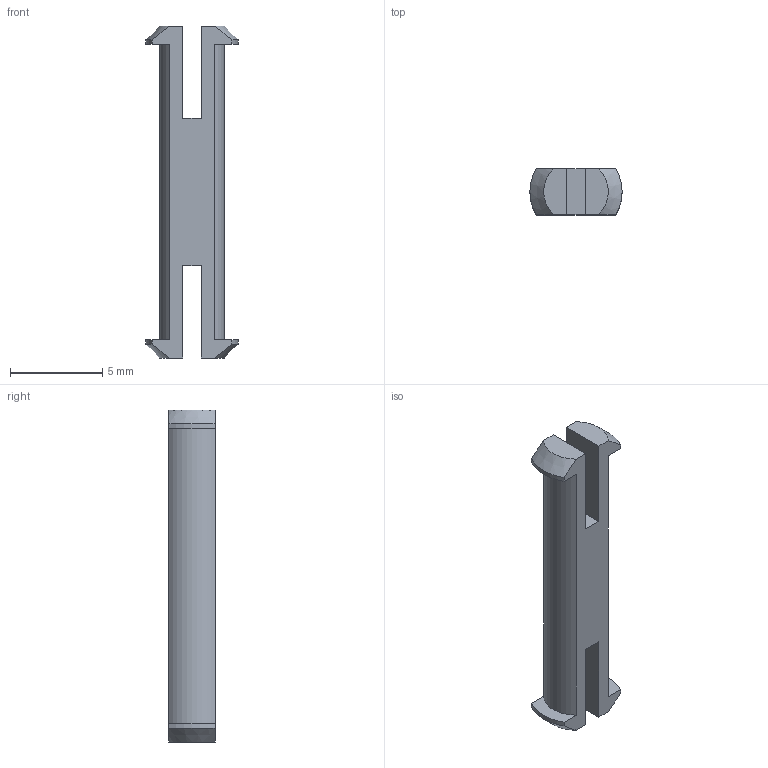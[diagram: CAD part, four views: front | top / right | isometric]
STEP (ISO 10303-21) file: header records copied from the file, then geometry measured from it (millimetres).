
FILE_DESCRIPTION(/* description */ (''),/* implementation_level */ '2;1');
FILE_NAME(/* name */ 'D:\STEP files\holder pin clicker.stp',/* time_stamp */ '2020-08-13T23:48:57+02:00',/* author */ ('Vít Budina'),/* organization */ (''),/* preprocessor_version */ 'ST-DEVELOPER v18',/* originating_system */ 'Autodesk Inventor 2020',/* authorisation */ '');
FILE_SCHEMA (('AUTOMOTIVE_DESIGN { 1 0 10303 214 3 1 1 }'));
Length unit declared in the file: millimetre
Products named in the file (1): holder pin clicker
Bounding box: 5 x 2.5 x 18 mm (x, y, z)
Volume: 122.9 mm3; surface area: 250 mm2
Topology: 1 solids, 1 shells, 26 faces, 72 edges, 48 vertices
Faces by surface type: plane 16, cylinder 6, cone 4
Entity records: 865 total; most frequent: CARTESIAN_POINT 163, ORIENTED_EDGE 144, DIRECTION 134, EDGE_CURVE 72, LINE 48, VECTOR 48, VERTEX_POINT 48, AXIS2_PLACEMENT_3D 43
